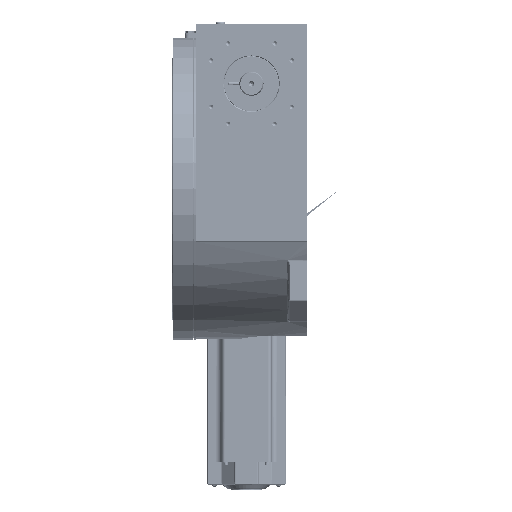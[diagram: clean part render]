
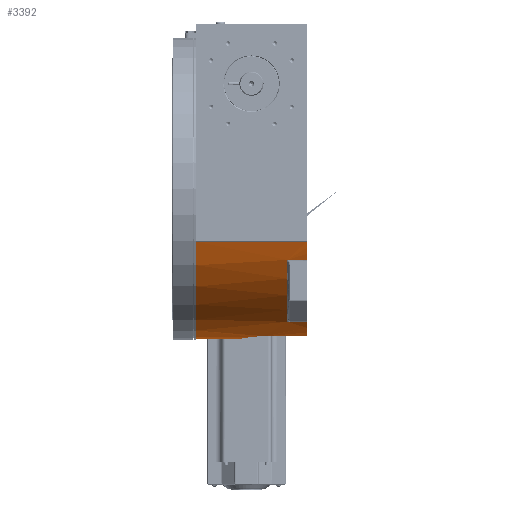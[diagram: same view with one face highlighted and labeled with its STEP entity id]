
A CAD part, left-side view. The second image highlights one B-rep face of the part: STEP entity #3392.
In plain terms, the highlighted cylindrical face has radius 218 mm (diameter 436 mm), a partial arc.
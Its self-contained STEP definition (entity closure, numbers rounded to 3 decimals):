
#3281=CARTESIAN_POINT('Axis2P3D Location',(0.,153.,0.)) ;
#3286=CARTESIAN_POINT('Line Origine',(0.,153.,-218.)) ;
#3290=CARTESIAN_POINT('Vertex',(0.,160.,-218.)) ;
#3292=CARTESIAN_POINT('Vertex',(0.,100.996,-218.)) ;
#3296=CARTESIAN_POINT('Control Point',(-46.212,55.,-213.046)) ;
#3297=CARTESIAN_POINT('Control Point',(-46.212,56.965,-213.046)) ;
#3298=CARTESIAN_POINT('Control Point',(-46.104,58.935,-213.069)) ;
#3299=CARTESIAN_POINT('Control Point',(-45.891,60.898,-213.115)) ;
#3300=CARTESIAN_POINT('Control Point',(-45.312,64.473,-213.24)) ;
#3301=CARTESIAN_POINT('Control Point',(-44.387,67.959,-213.434)) ;
#3302=CARTESIAN_POINT('Control Point',(-43.895,69.524,-213.536)) ;
#3303=CARTESIAN_POINT('Control Point',(-42.534,73.252,-213.814)) ;
#3304=CARTESIAN_POINT('Control Point',(-40.783,76.816,-214.155)) ;
#3305=CARTESIAN_POINT('Control Point',(-39.632,78.828,-214.373)) ;
#3306=CARTESIAN_POINT('Control Point',(-37.624,81.873,-214.736)) ;
#3307=CARTESIAN_POINT('Control Point',(-35.322,84.704,-215.122)) ;
#3308=CARTESIAN_POINT('Control Point',(-34.443,85.709,-215.265)) ;
#3309=CARTESIAN_POINT('Control Point',(-32.618,87.65,-215.551)) ;
#3310=CARTESIAN_POINT('Control Point',(-30.659,89.457,-215.837)) ;
#3311=CARTESIAN_POINT('Control Point',(-29.646,90.325,-215.979)) ;
#3312=CARTESIAN_POINT('Control Point',(-27.305,92.189,-216.292)) ;
#3313=CARTESIAN_POINT('Control Point',(-24.821,93.855,-216.589)) ;
#3314=CARTESIAN_POINT('Control Point',(-23.402,94.717,-216.748)) ;
#3315=CARTESIAN_POINT('Control Point',(-20.487,96.313,-217.048)) ;
#3316=CARTESIAN_POINT('Control Point',(-17.437,97.646,-217.31)) ;
#3317=CARTESIAN_POINT('Control Point',(-15.882,98.245,-217.429)) ;
#3318=CARTESIAN_POINT('Control Point',(-11.864,99.591,-217.701)) ;
#3319=CARTESIAN_POINT('Control Point',(-7.71,100.469,-217.886)) ;
#3320=CARTESIAN_POINT('Control Point',(-5.141,100.821,-217.962)) ;
#3321=CARTESIAN_POINT('Control Point',(-2.57,100.996,-218.)) ;
#3322=CARTESIAN_POINT('Control Point',(0.,100.996,-218.)) ;
#3323=CARTESIAN_POINT('Vertex',(-46.212,55.,-213.046)) ;
#3326=CARTESIAN_POINT('Line Origine',(-46.212,153.,-213.046)) ;
#3330=CARTESIAN_POINT('Vertex',(-46.212,0.,-213.046)) ;
#3333=CARTESIAN_POINT('Axis2P3D Location',(0.,0.,0.)) ;
#3337=CARTESIAN_POINT('Vertex',(-102.588,0.,-192.353)) ;
#3340=CARTESIAN_POINT('Line Origine',(-102.588,153.,-192.353)) ;
#3344=CARTESIAN_POINT('Vertex',(-102.588,28.,-192.353)) ;
#3347=CARTESIAN_POINT('Axis2P3D Location',(0.,28.,0.)) ;
#3351=CARTESIAN_POINT('Vertex',(-192.353,28.,-102.588)) ;
#3354=CARTESIAN_POINT('Line Origine',(-192.353,153.,-102.588)) ;
#3358=CARTESIAN_POINT('Vertex',(-192.353,0.,-102.588)) ;
#3361=CARTESIAN_POINT('Axis2P3D Location',(0.,0.,0.)) ;
#3365=CARTESIAN_POINT('Vertex',(-204.211,0.,-76.3)) ;
#3368=CARTESIAN_POINT('Line Origine',(-204.211,153.,-76.3)) ;
#3372=CARTESIAN_POINT('Vertex',(-204.211,160.,-76.3)) ;
#3375=CARTESIAN_POINT('Axis2P3D Location',(0.,160.,0.)) ;
#3282=DIRECTION('Axis2P3D Direction',(0.,1.,0.)) ;
#3283=DIRECTION('Axis2P3D XDirection',(0.,0.,-1.)) ;
#3287=DIRECTION('Vector Direction',(0.,1.,0.)) ;
#3327=DIRECTION('Vector Direction',(0.,1.,0.)) ;
#3334=DIRECTION('Axis2P3D Direction',(0.,1.,0.)) ;
#3341=DIRECTION('Vector Direction',(0.,1.,0.)) ;
#3348=DIRECTION('Axis2P3D Direction',(0.,1.,0.)) ;
#3355=DIRECTION('Vector Direction',(0.,1.,0.)) ;
#3362=DIRECTION('Axis2P3D Direction',(0.,1.,0.)) ;
#3369=DIRECTION('Vector Direction',(0.,1.,0.)) ;
#3376=DIRECTION('Axis2P3D Direction',(0.,1.,0.)) ;
#3284=AXIS2_PLACEMENT_3D('Cylinder Axis2P3D',#3281,#3282,#3283) ;
#3335=AXIS2_PLACEMENT_3D('Circle Axis2P3D',#3333,#3334,$) ;
#3349=AXIS2_PLACEMENT_3D('Circle Axis2P3D',#3347,#3348,$) ;
#3363=AXIS2_PLACEMENT_3D('Circle Axis2P3D',#3361,#3362,$) ;
#3377=AXIS2_PLACEMENT_3D('Circle Axis2P3D',#3375,#3376,$) ;
#3381=ORIENTED_EDGE('',*,*,#3294,.T.) ;
#3382=ORIENTED_EDGE('',*,*,#3325,.T.) ;
#3383=ORIENTED_EDGE('',*,*,#3332,.T.) ;
#3384=ORIENTED_EDGE('',*,*,#3339,.T.) ;
#3385=ORIENTED_EDGE('',*,*,#3346,.T.) ;
#3386=ORIENTED_EDGE('',*,*,#3353,.T.) ;
#3387=ORIENTED_EDGE('',*,*,#3360,.T.) ;
#3388=ORIENTED_EDGE('',*,*,#3367,.T.) ;
#3389=ORIENTED_EDGE('',*,*,#3374,.T.) ;
#3390=ORIENTED_EDGE('',*,*,#3379,.T.) ;
#3288=VECTOR('Line Direction',#3287,1.) ;
#3328=VECTOR('Line Direction',#3327,1.) ;
#3342=VECTOR('Line Direction',#3341,1.) ;
#3356=VECTOR('Line Direction',#3355,1.) ;
#3370=VECTOR('Line Direction',#3369,1.) ;
#3392=ADVANCED_FACE('Surface.51',(#3391),#3285,.T.) ;
#3295=B_SPLINE_CURVE_WITH_KNOTS('',5,(#3296,#3297,#3298,#3299,#3300,#3301,#3302,#3303,#3304,#3305,#3306,#3307,#3308,#3309,#3310,#3311,#3312,#3313,#3314,#3315,#3316,#3317,#3318,#3319,#3320,#3321,#3322),.UNSPECIFIED.,.F.,.U.,(6,3,3,3,3,3,3,3,6),(0.,13.965,25.626,42.121,51.586,61.043,72.85,84.66,102.867),.UNSPECIFIED.) ;
#3336=CIRCLE('generated circle',#3335,218.) ;
#3350=CIRCLE('generated circle',#3349,218.) ;
#3364=CIRCLE('generated circle',#3363,218.) ;
#3378=CIRCLE('generated circle',#3377,218.) ;
#3285=CYLINDRICAL_SURFACE('generated cylinder',#3284,218.) ;
#3294=EDGE_CURVE('',#3291,#3293,#3289,.F.) ;
#3325=EDGE_CURVE('',#3293,#3324,#3295,.F.) ;
#3332=EDGE_CURVE('',#3324,#3331,#3329,.F.) ;
#3339=EDGE_CURVE('',#3331,#3338,#3336,.T.) ;
#3346=EDGE_CURVE('',#3338,#3345,#3343,.T.) ;
#3353=EDGE_CURVE('',#3345,#3352,#3350,.T.) ;
#3360=EDGE_CURVE('',#3352,#3359,#3357,.F.) ;
#3367=EDGE_CURVE('',#3359,#3366,#3364,.T.) ;
#3374=EDGE_CURVE('',#3366,#3373,#3371,.T.) ;
#3379=EDGE_CURVE('',#3373,#3291,#3378,.F.) ;
#3380=EDGE_LOOP('',(#3381,#3382,#3383,#3384,#3385,#3386,#3387,#3388,#3389,#3390)) ;
#3391=FACE_OUTER_BOUND('',#3380,.T.) ;
#3289=LINE('Line',#3286,#3288) ;
#3329=LINE('Line',#3326,#3328) ;
#3343=LINE('Line',#3340,#3342) ;
#3357=LINE('Line',#3354,#3356) ;
#3371=LINE('Line',#3368,#3370) ;
#3291=VERTEX_POINT('',#3290) ;
#3293=VERTEX_POINT('',#3292) ;
#3324=VERTEX_POINT('',#3323) ;
#3331=VERTEX_POINT('',#3330) ;
#3338=VERTEX_POINT('',#3337) ;
#3345=VERTEX_POINT('',#3344) ;
#3352=VERTEX_POINT('',#3351) ;
#3359=VERTEX_POINT('',#3358) ;
#3366=VERTEX_POINT('',#3365) ;
#3373=VERTEX_POINT('',#3372) ;
